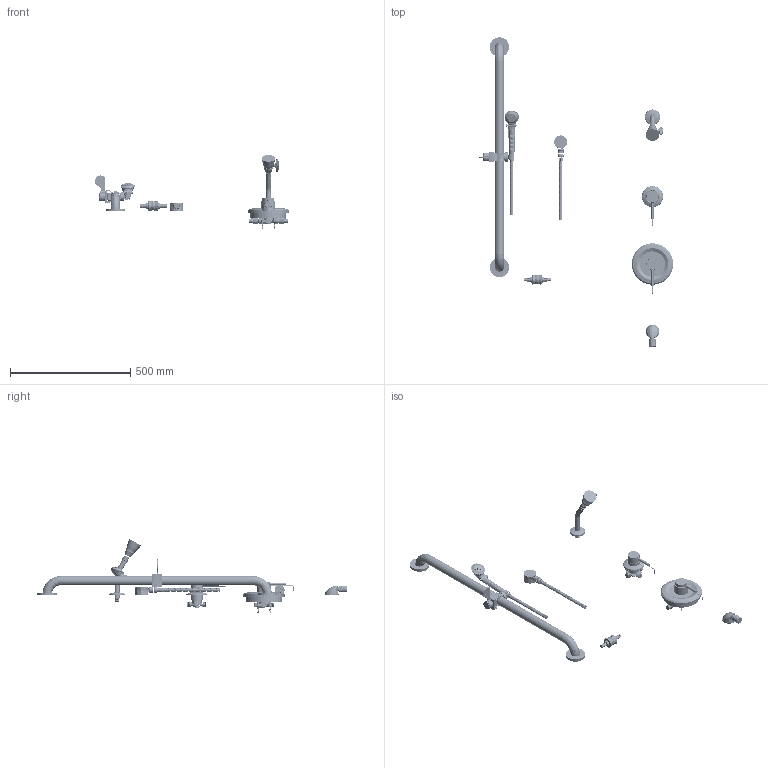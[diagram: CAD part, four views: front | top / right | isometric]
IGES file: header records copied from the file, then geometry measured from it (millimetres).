
Start section:  PTC IGES file: sh-pb5-37-044_rev030724.igs
Global section: file name: sh-pb5-37-044_rev030724.igs; native system: Creo Parametric by PTC Inc.; preprocessor: 2021184; author: rodjo; organization: Unknown; date: 20240307.121113; units: inch
Bounding box: 806.32 x 1283.64 x 307.92 mm (x, y, z)
Surface area: 592916.5 mm2 (no closed solid volume)
Topology: 0 solids, 0 shells, 1832 faces, 14985 edges, 20369 vertices
Faces by surface type: revolution 1248, bspline 584
